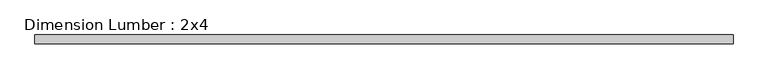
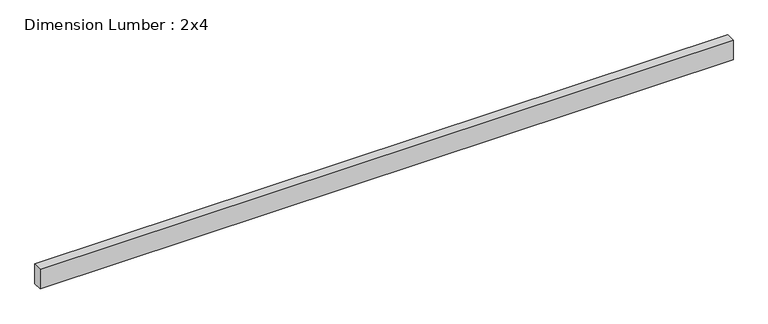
"""IFC4 building model written with IfcOpenShell, lengths in millimetres: beam geometry, Dimension Lumber : 2x4."""

from ifc_helpers import new_model, si_unit, frame, origin, place, context, project, spatial, polyline, outline, extrude, source, transform, mapped, element, save


def dimension_lumber_2x4_c75e3e24(model_context):
    return source(origin(), model_context, "Body", "SweptSolid", [
        extrude(outline(polyline([(1461.1449219, 19.05), (1461.1449219, -19.05), (-1480.1949219, -19.05), (-1480.1949219, 19.05), (1461.1449219, 19.05)])), frame((0.0, 0.0, -44.45), z_axis=(0.0, 0.0, 1.0), x_axis=(1.0, 0.0, 0.0)), (0.0, 0.0, 1.0), 88.9),
    ])


if __name__ == "__main__":
    model = new_model("IFC4")
    model_context = context("Model", 3, world=origin())
    ifc_project = project(units=[si_unit("LENGTHUNIT", "METRE", prefix="MILLI")], contexts=[model_context])
    site = spatial("IfcSite", under=ifc_project)
    building = spatial("IfcBuilding", under=site)
    placement = place(None, origin())
    dimension_lumber_2x4_shape = dimension_lumber_2x4_c75e3e24(model_context)
    element("IfcBeam", 1, ObjectType="Dimension Lumber : 2x4", at=placement, inside=building, context=model_context, shape_type="MappedRepresentation", body=[
        mapped(dimension_lumber_2x4_shape, transform((0.0, 0.0, 0.0), x_axis=(1.0, 0.0, 0.0), y_axis=(0.0, 1.0, 0.0), z_axis=(0.0, 0.0, 1.0))),
    ])
    save(model, "model.ifc")
